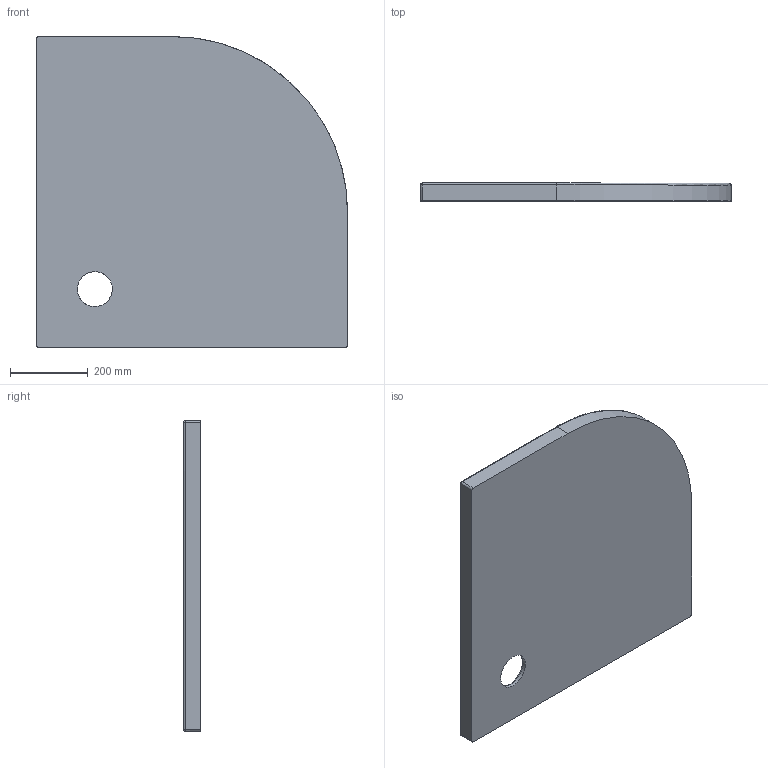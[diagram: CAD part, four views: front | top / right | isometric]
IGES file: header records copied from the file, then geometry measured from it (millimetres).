
Global section: file name: 994680bb-573b-4a49-b178-4e529d68f060; native system: unknown; preprocessor: unknown; author: unknown; organization: unknown; date: 20200103.082925; units: millimetre
Bounding box: 800 x 45 x 800 mm (x, y, z)
Volume: 17516933.8 mm3; surface area: 1354700.3 mm2
Topology: 1 solids, 1 shells, 47 faces, 100 edges, 56 vertices
Faces by surface type: bspline 47
